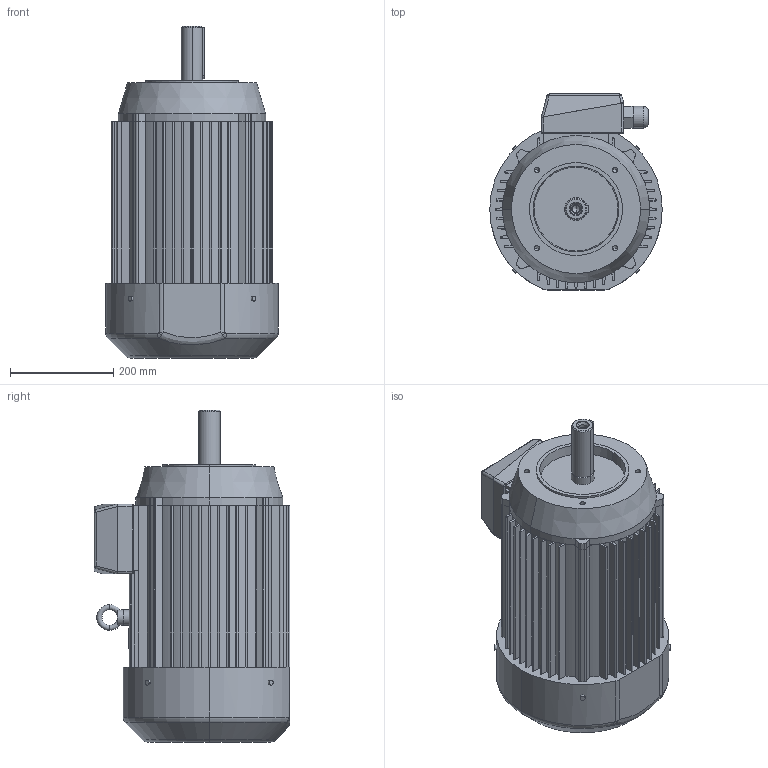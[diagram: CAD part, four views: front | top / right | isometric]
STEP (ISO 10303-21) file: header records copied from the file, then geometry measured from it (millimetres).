
FILE_DESCRIPTION (( 'STEP AP203' ), '1' );
FILE_NAME ('3SIEK160M;L-B14-C2.STEP', '2014-07-22T09:08:42', ( '' ), ( '' ), 'SwSTEP 2.0', 'SolidWorks 2003064', '' );
FILE_SCHEMA (( 'CONFIG_CONTROL_DESIGN' ));
Length unit declared in the file: millimetre
Products named in the file (1): 3SIEK160M;L-B14-C2
Bounding box: 334 x 379 x 643 mm (x, y, z)
Volume: 38929886.9 mm3; surface area: 1330733.4 mm2
Topology: 14 solids, 14 shells, 395 faces, 1025 edges, 649 vertices
Faces by surface type: cylinder 177, plane 168, cone 24, torus 17, bspline 5, sphere 4
Entity records: 15095 total; most frequent: CARTESIAN_POINT 5222, DIRECTION 2139, ORIENTED_EDGE 2018, EDGE_CURVE 1009, AXIS2_PLACEMENT_3D 780, VERTEX_POINT 649, LINE 579, VECTOR 579
